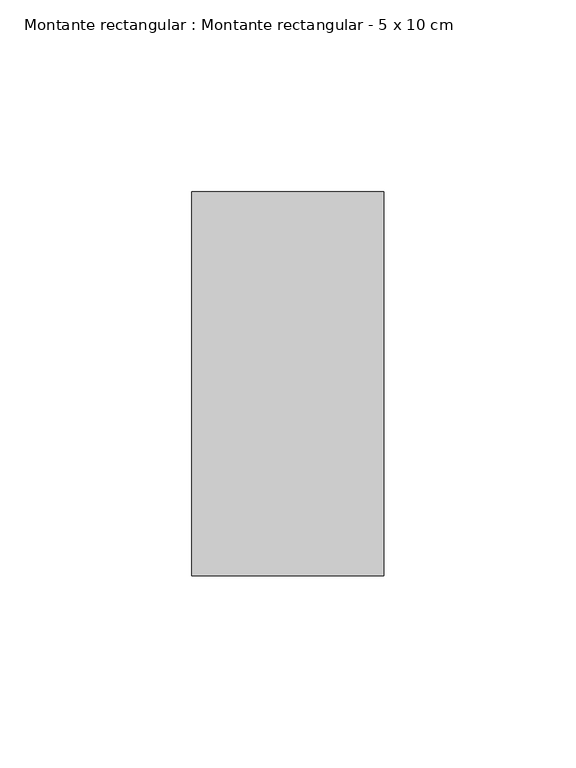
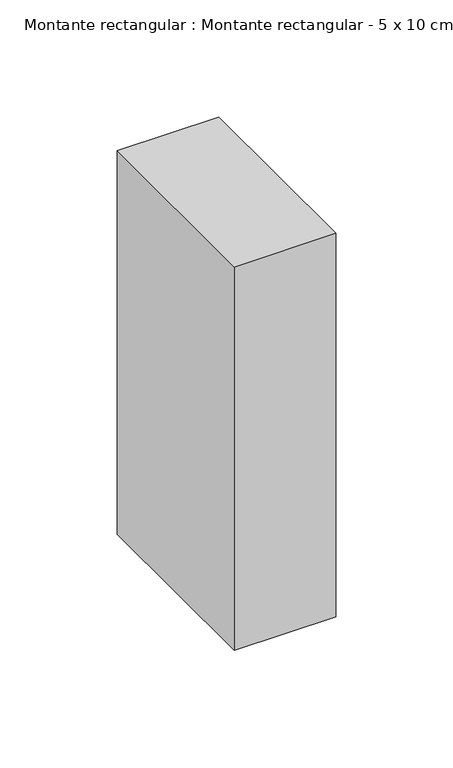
"""IFC4 building model written with IfcOpenShell, lengths in millimetres: member geometry, Montante rectangular : Montante rectangular - 5 x 10 cm."""

import ifcopenshell
import ifcopenshell.guid

model = None  # the IFC model being written
_history = None  # IfcOwnerHistory: only IFC2X3 demands one
_inside = {}  # id of a spatial element -> (the spatial element, [elements in it])
_under = {}  # id of a project, library or spatial element -> (it, [spatial elements below it])
_declared = {}  # id of a project -> (the project, [libraries it declares])
_typed = {}  # id of a type object -> (the type object, [elements of that type])
_made_of = {}  # id of a material, layer set ... -> (it, [elements and type objects made of it])


def new_model(schema):
    """Start an empty IFC model of exactly this schema.

    Asked for "IFC4X3", IfcOpenShell would pick the latest addendum, in which some entities
    have other attributes; the version numbers below select the first issue.
    IFC2X3 requires an IfcOwnerHistory on every rooted entity: one is made here for all.
    """
    global model, _history
    if schema == "IFC4X3":
        model = ifcopenshell.file(schema_version=(4, 3, 0, 0))
    else:
        model = ifcopenshell.file(schema=schema)
    _inside.clear()
    _under.clear()
    _declared.clear()
    _typed.clear()
    _made_of.clear()
    _history = None
    if model.schema == "IFC2X3":
        org = make("IfcOrganization", Name="unknown")
        user = make(
            "IfcPersonAndOrganization",
            ThePerson=make("IfcPerson", FamilyName="unknown"),
            TheOrganization=org,
        )
        app = make(
            "IfcApplication",
            ApplicationDeveloper=org,
            Version="unknown",
            ApplicationFullName="unknown",
            ApplicationIdentifier="unknown",
        )
        _history = make(
            "IfcOwnerHistory",
            OwningUser=user,
            OwningApplication=app,
            ChangeAction="ADDED",
            CreationDate=0,
        )
    return model


def make(cls, **values):
    """One entity of the class cls with the attributes given. An attribute that is None is left unset."""
    return model.create_entity(
        cls, **{name: value for name, value in values.items() if value is not None}
    )


def rooted(cls, **values):
    """An entity with a GlobalId (a new one), such as an element, a storey or a relation."""
    return make(cls, GlobalId=ifcopenshell.guid.new(), OwnerHistory=_history, **values)


def si_unit(unit_type, name, prefix=None):
    """IfcSIUnit, for example si_unit("LENGTHUNIT", "METRE", prefix="MILLI")."""
    return make("IfcSIUnit", UnitType=unit_type, Prefix=prefix, Name=name)


def assignment(units):
    """IfcUnitAssignment: the units of a project."""
    return None if units is None else make("IfcUnitAssignment", Units=units)


def point(xyz):
    """IfcCartesianPoint."""
    return None if xyz is None else make("IfcCartesianPoint", Coordinates=xyz)


def direction(xyz):
    """IfcDirection."""
    return None if xyz is None else make("IfcDirection", DirectionRatios=xyz)


def frame(location, z_axis=None, x_axis=None):
    """IfcAxis2Placement3D, a coordinate frame: its origin and axes. An axis left out is left unset."""
    return make(
        "IfcAxis2Placement3D",
        Location=point(location),
        Axis=direction(z_axis),
        RefDirection=direction(x_axis),
    )


def origin():
    """The frame at (0, 0, 0) with its axes left unset."""
    return frame((0.0, 0.0, 0.0))


def place(relative_to, where):
    """IfcLocalPlacement: puts the frame where relative to a parent placement (None: the world)."""
    return make(
        "IfcLocalPlacement", PlacementRelTo=relative_to, RelativePlacement=where
    )


def context(
    kind, dimensions, precision=None, world=None, true_north=None, identifier=None
):
    """IfcGeometricRepresentationContext, for example the 3D "Model" context."""
    return make(
        "IfcGeometricRepresentationContext",
        ContextIdentifier=identifier,
        ContextType=kind,
        CoordinateSpaceDimension=dimensions,
        Precision=precision,
        WorldCoordinateSystem=world,
        TrueNorth=true_north,
    )


def project(units=None, contexts=None):
    """IfcProject with its units and contexts."""
    return rooted(
        "IfcProject",
        Name="project",
        RepresentationContexts=contexts,
        UnitsInContext=assignment(units),
    )


def spatial(cls, under=None, at=None, **own):
    """A site, building, storey or space (cls), placed at a placement, below another one or the project."""
    s = rooted(cls, ObjectPlacement=at, **own)
    if under is not None:
        _under.setdefault(under.id(), (under, []))[1].append(s)
    return s


def polyline(points):
    """IfcPolyline through the points."""
    return make("IfcPolyline", Points=[point(p) for p in points])


def outline(outer, holes=None, kind="AREA"):
    """IfcArbitraryClosedProfileDef: a profile drawn as a closed curve; with holes, ...WithVoids."""
    if holes is None:
        return make("IfcArbitraryClosedProfileDef", ProfileType=kind, OuterCurve=outer)
    return make(
        "IfcArbitraryProfileDefWithVoids",
        ProfileType=kind,
        OuterCurve=outer,
        InnerCurves=holes,
    )


def extrude(swept, where, along, depth):
    """IfcExtrudedAreaSolid: the profile swept, set in the frame where, extruded along a direction by depth."""
    return make(
        "IfcExtrudedAreaSolid",
        SweptArea=swept,
        Position=where,
        ExtrudedDirection=direction(along),
        Depth=depth,
    )


def shape(context_of_items, identifier, shape_type, items):
    """IfcShapeRepresentation: the items that make up one representation, for example the "Body"."""
    return make(
        "IfcShapeRepresentation",
        ContextOfItems=context_of_items,
        RepresentationIdentifier=identifier,
        RepresentationType=shape_type,
        Items=items,
    )


def source(mapping_origin, context_of_items, identifier, shape_type, items):
    """IfcRepresentationMap: a shape defined once, which mapped items show again and again."""
    return make(
        "IfcRepresentationMap",
        MappingOrigin=mapping_origin,
        MappedRepresentation=shape(context_of_items, identifier, shape_type, items),
    )


def transform(
    local_origin,
    x_axis=None,
    y_axis=None,
    z_axis=None,
    scale=None,
    scale2=None,
    scale3=None,
    uniform=True,
):
    """IfcCartesianTransformationOperator3D, or its non-uniform kind. x_axis, y_axis, z_axis: its Axis1, 2, 3."""
    if uniform:
        return make(
            "IfcCartesianTransformationOperator3D",
            Axis1=direction(x_axis),
            Axis2=direction(y_axis),
            LocalOrigin=point(local_origin),
            Scale=scale,
            Axis3=direction(z_axis),
        )
    return make(
        "IfcCartesianTransformationOperator3DnonUniform",
        Axis1=direction(x_axis),
        Axis2=direction(y_axis),
        LocalOrigin=point(local_origin),
        Scale=scale,
        Axis3=direction(z_axis),
        Scale2=scale2,
        Scale3=scale3,
    )


def mapped(mapping_source, mapping_target):
    """IfcMappedItem: shows the shape of a source again, moved by a transform."""
    return make(
        "IfcMappedItem", MappingSource=mapping_source, MappingTarget=mapping_target
    )


def made_of(thing, what):
    """Note that an element or type object is made of a material, layer set ...; save() writes the relation."""
    if what is not None:
        _made_of.setdefault(what.id(), (what, []))[1].append(thing)
    return thing


def element(
    cls,
    number,
    at=None,
    inside=None,
    cuts=None,
    type_object=None,
    material=None,
    context=None,
    identifier="Body",
    shape_type=None,
    held_by="IfcProductDefinitionShape",
    body=None,
    shapes=None,
    **own,
):
    """One element of the class cls, such as IfcWall. Its Tag is "e" and its number.

    at: its placement. inside: the storey or other place that contains it. cuts: it is an
    opening in that element (IfcRelVoidsElement). A single representation is given by context,
    identifier, shape_type and body (its items); several are given by shapes. held_by: the class
    of the entity that holds the representations. save() writes the other relations.
    """
    e = rooted(cls, Tag="e%d" % number, ObjectPlacement=at, **own)
    if body is not None:
        shapes = [shape(context, identifier, shape_type, body)]
    if shapes is not None:
        e.Representation = make(held_by, Representations=shapes)
    if inside is not None:
        _inside.setdefault(inside.id(), (inside, []))[1].append(e)
    if cuts is not None:
        rooted(
            "IfcRelVoidsElement", RelatingBuildingElement=cuts, RelatedOpeningElement=e
        )
    if type_object is not None:
        _typed.setdefault(type_object.id(), (type_object, []))[1].append(e)
    return made_of(e, material)


def aggregate(whole, parts):
    """IfcRelAggregates: a whole, such as a stair, and the parts it consists of."""
    return rooted("IfcRelAggregates", RelatingObject=whole, RelatedObjects=parts)


def save(model, path):
    """Write the relations noted so far, then the file.

    IfcRelAggregates (storeys below a building ...), IfcRelContainedInSpatialStructure (elements
    in a storey), IfcRelDefinesByType, IfcRelAssociatesMaterial and IfcRelDeclares: one each for
    every whole, place, type object, material and project.
    """
    for whole, parts in _under.values():
        aggregate(whole, parts)
    for where, things in _inside.values():
        rooted(
            "IfcRelContainedInSpatialStructure",
            RelatedElements=things,
            RelatingStructure=where,
        )
    for kind, things in _typed.values():
        rooted("IfcRelDefinesByType", RelatedObjects=things, RelatingType=kind)
    for what, things in _made_of.values():
        rooted("IfcRelAssociatesMaterial", RelatedObjects=things, RelatingMaterial=what)
    for by, libraries in _declared.values():
        rooted("IfcRelDeclares", RelatingContext=by, RelatedDefinitions=libraries)
    model.write(path)


def montante_rectangular_montante_rectangular_5_x_10_cm_9c70abfb(model_context):
    return source(origin(), model_context, "Body", "SweptSolid", [
        extrude(outline(polyline([(25.0, 50.0), (25.0, -50.0), (-25.0, -50.0), (-25.0, 50.0), (25.0, 50.0)])), frame((0.0, 0.0, -200.0), z_axis=(0.0, 0.0, 1.0), x_axis=(1.0, 0.0, 0.0)), (0.0, 0.0, 1.0), 200.0),
    ])


if __name__ == "__main__":
    model = new_model("IFC4")
    model_context = context("Model", 3, world=origin())
    ifc_project = project(units=[si_unit("LENGTHUNIT", "METRE", prefix="MILLI")], contexts=[model_context])
    site = spatial("IfcSite", under=ifc_project)
    building = spatial("IfcBuilding", under=site)
    placement = place(None, origin())
    montante_rectangular_montante_rectangular_5_x_10_cm_shape = montante_rectangular_montante_rectangular_5_x_10_cm_9c70abfb(model_context)
    element("IfcMember", 1, ObjectType="Montante rectangular : Montante rectangular - 5 x 10 cm", at=placement, inside=building, context=model_context, shape_type="MappedRepresentation", body=[
        mapped(montante_rectangular_montante_rectangular_5_x_10_cm_shape, transform((0.0, 0.0, 0.0), x_axis=(1.0, 0.0, 0.0), y_axis=(0.0, 1.0, 0.0), z_axis=(0.0, 0.0, 1.0))),
    ])
    save(model, "model.ifc")
